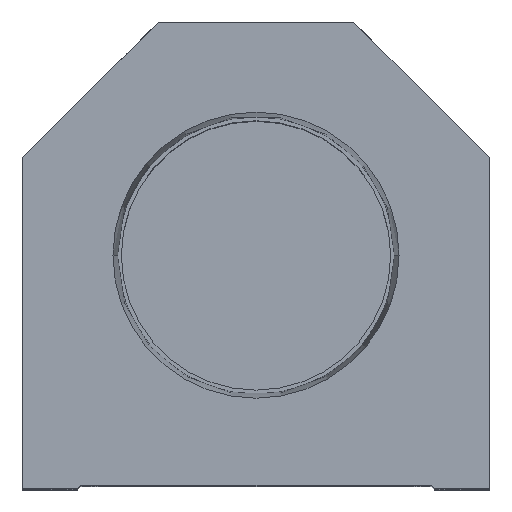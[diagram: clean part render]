
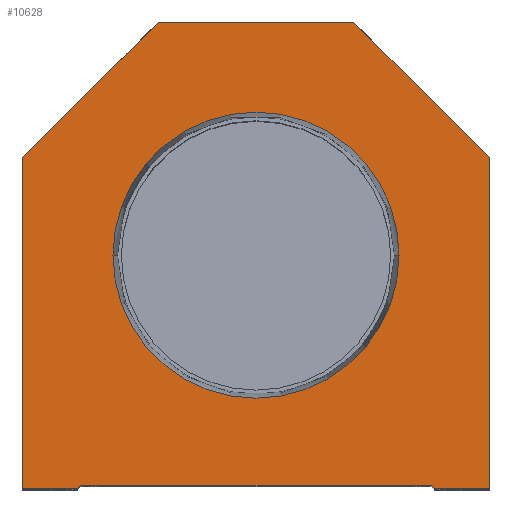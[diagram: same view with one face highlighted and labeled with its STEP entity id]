
A CAD part, top view. The second image highlights one B-rep face of the part: STEP entity #10628.
In plain terms, the highlighted planar face has unit normal (0, 0, 1).
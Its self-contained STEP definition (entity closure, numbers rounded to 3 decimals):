
#185 = CARTESIAN_POINT ( 'NONE',  ( -23.374, 38.1, 0. ) ) ;
#774 = LINE ( 'NONE', #8292, #11001 ) ;
#926 = VERTEX_POINT ( 'NONE', #17058 ) ;
#1136 = VECTOR ( 'NONE', #4700, 1000. ) ;
#1389 = DIRECTION ( 'NONE',  ( 1., 0., 0. ) ) ;
#1528 = LINE ( 'NONE', #14261, #1136 ) ;
#1607 = DIRECTION ( 'NONE',  ( 1., 0., 0. ) ) ;
#1693 = DIRECTION ( 'NONE',  ( -0.707, -0.707, 0. ) ) ;
#2165 = CARTESIAN_POINT ( 'NONE',  ( 28.6, 0., 0. ) ) ;
#2330 = CARTESIAN_POINT ( 'NONE',  ( 29.1, 0., 0. ) ) ;
#2508 = EDGE_CURVE ( 'NONE', #15791, #2746, #9282, .T. ) ;
#2746 = VERTEX_POINT ( 'NONE', #4399 ) ;
#3116 = ORIENTED_EDGE ( 'NONE', *, *, #19085, .T. ) ;
#3127 = ORIENTED_EDGE ( 'NONE', *, *, #8467, .T. ) ;
#3291 = EDGE_CURVE ( 'NONE', #19754, #13952, #20144, .T. ) ;
#3672 = EDGE_CURVE ( 'NONE', #5119, #6067, #1528, .T. ) ;
#4086 = ORIENTED_EDGE ( 'NONE', *, *, #15306, .T. ) ;
#4115 = CARTESIAN_POINT ( 'NONE',  ( -28.6, 0.5, 0. ) ) ;
#4178 = EDGE_CURVE ( 'NONE', #13952, #5119, #11771, .T. ) ;
#4399 = CARTESIAN_POINT ( 'NONE',  ( -29.1, 0., 0. ) ) ;
#4551 = CIRCLE ( 'NONE', #12649, 23.374 ) ;
#4654 = CARTESIAN_POINT ( 'NONE',  ( 14.55, 14.55, 0. ) ) ;
#4700 = DIRECTION ( 'NONE',  ( 0., 1., 0. ) ) ;
#5026 = VECTOR ( 'NONE', #1693, 1000. ) ;
#5119 = VERTEX_POINT ( 'NONE', #13234 ) ;
#5162 = VECTOR ( 'NONE', #9184, 1000. ) ;
#5356 = DIRECTION ( 'NONE',  ( 1., 0., 0. ) ) ;
#5559 = VECTOR ( 'NONE', #10611, 1000. ) ;
#5928 = VERTEX_POINT ( 'NONE', #185 ) ;
#5979 = VERTEX_POINT ( 'NONE', #6357 ) ;
#6067 = VERTEX_POINT ( 'NONE', #10535 ) ;
#6162 = DIRECTION ( 'NONE',  ( 0.707, -0.707, 0. ) ) ;
#6282 = CARTESIAN_POINT ( 'NONE',  ( 16., 76.2, 0. ) ) ;
#6357 = CARTESIAN_POINT ( 'NONE',  ( -38.1, 54.1, 0. ) ) ;
#6458 = EDGE_LOOP ( 'NONE', ( #17100, #13181 ) ) ;
#6622 = EDGE_CURVE ( 'NONE', #7686, #5928, #4551, .T. ) ;
#6756 = DIRECTION ( 'NONE',  ( -1., 0., 0. ) ) ;
#7167 = LINE ( 'NONE', #12047, #5559 ) ;
#7405 = FACE_OUTER_BOUND ( 'NONE', #13432, .T. ) ;
#7686 = VERTEX_POINT ( 'NONE', #19831 ) ;
#7702 = DIRECTION ( 'NONE',  ( 0., 0., 1. ) ) ;
#7994 = LINE ( 'NONE', #17306, #5026 ) ;
#8106 = EDGE_CURVE ( 'NONE', #2746, #8525, #12934, .T. ) ;
#8292 = CARTESIAN_POINT ( 'NONE',  ( 16., 76.2, 0. ) ) ;
#8467 = EDGE_CURVE ( 'NONE', #5979, #15791, #7167, .T. ) ;
#8525 = VERTEX_POINT ( 'NONE', #10419 ) ;
#8669 = CARTESIAN_POINT ( 'NONE',  ( 0., 38.1, 0. ) ) ;
#8769 = LINE ( 'NONE', #4115, #9503 ) ;
#8832 = ORIENTED_EDGE ( 'NONE', *, *, #4178, .T. ) ;
#8920 = DIRECTION ( 'NONE',  ( -0.707, 0.707, 0. ) ) ;
#9079 = ORIENTED_EDGE ( 'NONE', *, *, #11519, .T. ) ;
#9183 = VECTOR ( 'NONE', #8920, 1000. ) ;
#9184 = DIRECTION ( 'NONE',  ( 1., 0., 0. ) ) ;
#9241 = CARTESIAN_POINT ( 'NONE',  ( 0., 0., 0. ) ) ;
#9282 = LINE ( 'NONE', #12737, #5162 ) ;
#9503 = VECTOR ( 'NONE', #14801, 1000. ) ;
#9603 = ORIENTED_EDGE ( 'NONE', *, *, #18772, .T. ) ;
#10308 = CARTESIAN_POINT ( 'NONE',  ( -38.1, 0., 0. ) ) ;
#10419 = CARTESIAN_POINT ( 'NONE',  ( -28.6, 0.5, 0. ) ) ;
#10535 = CARTESIAN_POINT ( 'NONE',  ( 38.1, 54.1, 0. ) ) ;
#10611 = DIRECTION ( 'NONE',  ( 0., -1., 0. ) ) ;
#10628 = ADVANCED_FACE ( 'NONE', ( #12403, #7405 ), #13539, .T. ) ;
#10737 = ORIENTED_EDGE ( 'NONE', *, *, #2508, .T. ) ;
#11001 = VECTOR ( 'NONE', #6756, 1000. ) ;
#11519 = EDGE_CURVE ( 'NONE', #926, #5979, #7994, .T. ) ;
#11686 = LINE ( 'NONE', #16584, #9183 ) ;
#11771 = LINE ( 'NONE', #2165, #17788 ) ;
#12047 = CARTESIAN_POINT ( 'NONE',  ( -38.1, 0., 0. ) ) ;
#12403 = FACE_BOUND ( 'NONE', #6458, .T. ) ;
#12649 = AXIS2_PLACEMENT_3D ( 'NONE', #8669, #7702, #1607 ) ;
#12737 = CARTESIAN_POINT ( 'NONE',  ( -28.6, 0., 0. ) ) ;
#12861 = ORIENTED_EDGE ( 'NONE', *, *, #8106, .T. ) ;
#12934 = LINE ( 'NONE', #19611, #18580 ) ;
#13181 = ORIENTED_EDGE ( 'NONE', *, *, #17580, .F. ) ;
#13189 = ORIENTED_EDGE ( 'NONE', *, *, #3672, .T. ) ;
#13234 = CARTESIAN_POINT ( 'NONE',  ( 38.1, 0., 0. ) ) ;
#13432 = EDGE_LOOP ( 'NONE', ( #10737, #12861, #9603, #13930, #8832, #13189, #3116, #4086, #9079, #3127 ) ) ;
#13539 = PLANE ( 'NONE',  #18046 ) ;
#13930 = ORIENTED_EDGE ( 'NONE', *, *, #3291, .T. ) ;
#13952 = VERTEX_POINT ( 'NONE', #2330 ) ;
#13954 = CARTESIAN_POINT ( 'NONE',  ( 28.6, 0.5, 0. ) ) ;
#14125 = CARTESIAN_POINT ( 'NONE',  ( 0., 38.1, 0. ) ) ;
#14184 = VERTEX_POINT ( 'NONE', #6282 ) ;
#14261 = CARTESIAN_POINT ( 'NONE',  ( 38.1, 0., 0. ) ) ;
#14298 = VECTOR ( 'NONE', #6162, 1000. ) ;
#14801 = DIRECTION ( 'NONE',  ( 1., 0., 0. ) ) ;
#15306 = EDGE_CURVE ( 'NONE', #14184, #926, #774, .T. ) ;
#15791 = VERTEX_POINT ( 'NONE', #10308 ) ;
#16360 = CIRCLE ( 'NONE', #18954, 23.374 ) ;
#16584 = CARTESIAN_POINT ( 'NONE',  ( 38.1, 54.1, 0. ) ) ;
#16804 = DIRECTION ( 'NONE',  ( 1., 0., 0. ) ) ;
#17058 = CARTESIAN_POINT ( 'NONE',  ( -16., 76.2, 0. ) ) ;
#17100 = ORIENTED_EDGE ( 'NONE', *, *, #6622, .F. ) ;
#17190 = DIRECTION ( 'NONE',  ( 0., 0., 1. ) ) ;
#17306 = CARTESIAN_POINT ( 'NONE',  ( -38.1, 54.1, 0. ) ) ;
#17580 = EDGE_CURVE ( 'NONE', #5928, #7686, #16360, .T. ) ;
#17788 = VECTOR ( 'NONE', #5356, 1000. ) ;
#17968 = DIRECTION ( 'NONE',  ( 0.707, 0.707, 0. ) ) ;
#18046 = AXIS2_PLACEMENT_3D ( 'NONE', #9241, #19989, #16804 ) ;
#18580 = VECTOR ( 'NONE', #17968, 1000. ) ;
#18772 = EDGE_CURVE ( 'NONE', #8525, #19754, #8769, .T. ) ;
#18954 = AXIS2_PLACEMENT_3D ( 'NONE', #14125, #17190, #1389 ) ;
#19085 = EDGE_CURVE ( 'NONE', #6067, #14184, #11686, .T. ) ;
#19611 = CARTESIAN_POINT ( 'NONE',  ( -14.55, 14.55, 0. ) ) ;
#19754 = VERTEX_POINT ( 'NONE', #13954 ) ;
#19831 = CARTESIAN_POINT ( 'NONE',  ( 23.374, 38.1, 0. ) ) ;
#19989 = DIRECTION ( 'NONE',  ( 0., 0., 1. ) ) ;
#20144 = LINE ( 'NONE', #4654, #14298 ) ;
